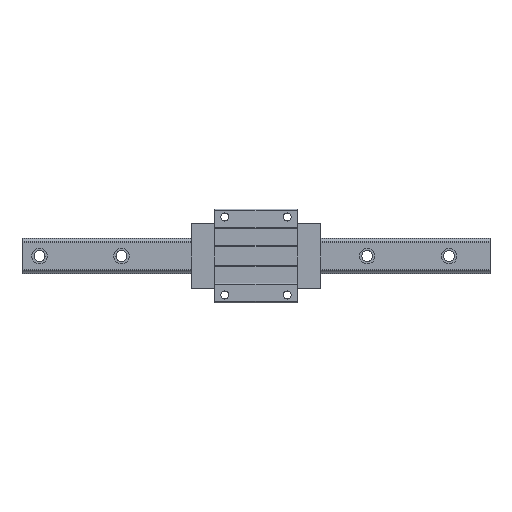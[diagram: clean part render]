
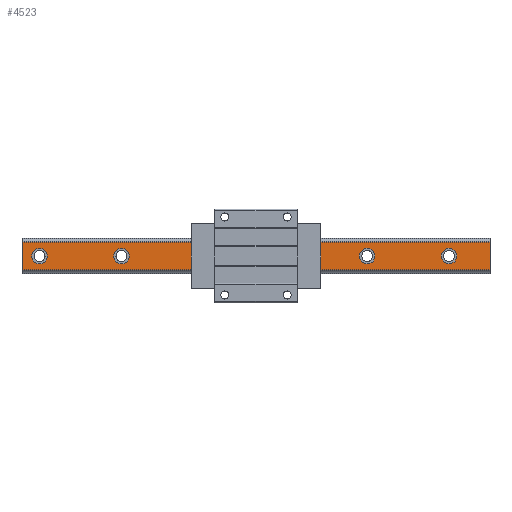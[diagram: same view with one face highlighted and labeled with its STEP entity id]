
A CAD part, top view. The second image highlights one B-rep face of the part: STEP entity #4523.
In plain terms, the highlighted planar face has unit normal (0, 0, 1).
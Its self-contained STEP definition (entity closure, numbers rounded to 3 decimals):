
#104 = EDGE_LOOP ( 'NONE', ( #3225, #5745 ) ) ;
#137 = VECTOR ( 'NONE', #3309, 1000. ) ;
#143 = CARTESIAN_POINT ( 'NONE',  ( -172.5, 0., 32. ) ) ;
#146 = CARTESIAN_POINT ( 'NONE',  ( 37.5, 0., 32. ) ) ;
#185 = DIRECTION ( 'NONE',  ( 0., 0., 1. ) ) ;
#203 = CARTESIAN_POINT ( 'NONE',  ( -267.5, 0., 32. ) ) ;
#219 = DIRECTION ( 'NONE',  ( 1., 0., 0. ) ) ;
#227 = DIRECTION ( 'NONE',  ( 1., 0., 0. ) ) ;
#313 = AXIS2_PLACEMENT_3D ( 'NONE', #6569, #3818, #3106 ) ;
#341 = FACE_BOUND ( 'NONE', #104, .T. ) ;
#343 = EDGE_LOOP ( 'NONE', ( #2213, #3346 ) ) ;
#413 = CIRCLE ( 'NONE', #4105, 10. ) ;
#472 = CARTESIAN_POINT ( 'NONE',  ( -67.5, 0., 32. ) ) ;
#483 = CARTESIAN_POINT ( 'NONE',  ( 47.5, 0., 32. ) ) ;
#532 = DIRECTION ( 'NONE',  ( 1., 0., 0. ) ) ;
#544 = DIRECTION ( 'NONE',  ( 1., 0., 0. ) ) ;
#573 = CARTESIAN_POINT ( 'NONE',  ( -77.5, 0., 32. ) ) ;
#594 = EDGE_CURVE ( 'NONE', #3089, #6977, #6960, .T. ) ;
#609 = AXIS2_PLACEMENT_3D ( 'NONE', #146, #2427, #219 ) ;
#615 = DIRECTION ( 'NONE',  ( 0., 0., 1. ) ) ;
#656 = VERTEX_POINT ( 'NONE', #7164 ) ;
#723 = CIRCLE ( 'NONE', #3000, 10. ) ;
#818 = VERTEX_POINT ( 'NONE', #5085 ) ;
#858 = PLANE ( 'NONE',  #313 ) ;
#917 = VECTOR ( 'NONE', #1128, 1000. ) ;
#942 = EDGE_LOOP ( 'NONE', ( #3585, #2788 ) ) ;
#1045 = EDGE_LOOP ( 'NONE', ( #7026, #6570, #2561, #6188 ) ) ;
#1128 = DIRECTION ( 'NONE',  ( 0., -1., 0. ) ) ;
#1202 = CARTESIAN_POINT ( 'NONE',  ( -57.5, 0., 32. ) ) ;
#1208 = CARTESIAN_POINT ( 'NONE',  ( 142.5, 0., 32. ) ) ;
#1227 = CARTESIAN_POINT ( 'NONE',  ( -67.5, 0., 32. ) ) ;
#1334 = VERTEX_POINT ( 'NONE', #2346 ) ;
#1412 = CARTESIAN_POINT ( 'NONE',  ( 27.5, 0., 32. ) ) ;
#1466 = AXIS2_PLACEMENT_3D ( 'NONE', #3392, #1745, #6175 ) ;
#1480 = CIRCLE ( 'NONE', #5747, 10. ) ;
#1591 = LINE ( 'NONE', #3198, #137 ) ;
#1611 = EDGE_LOOP ( 'NONE', ( #2737, #3540 ) ) ;
#1693 = LINE ( 'NONE', #3965, #917 ) ;
#1745 = DIRECTION ( 'NONE',  ( 0., 0., 1. ) ) ;
#1781 = CARTESIAN_POINT ( 'NONE',  ( -287.5, 0., 32. ) ) ;
#1841 = DIRECTION ( 'NONE',  ( 0., 0., 1. ) ) ;
#1954 = FACE_BOUND ( 'NONE', #343, .T. ) ;
#2103 = VERTEX_POINT ( 'NONE', #6229 ) ;
#2108 = FACE_BOUND ( 'NONE', #942, .T. ) ;
#2137 = CARTESIAN_POINT ( 'NONE',  ( -162.5, 0., 32. ) ) ;
#2196 = DIRECTION ( 'NONE',  ( 0., 0., 1. ) ) ;
#2205 = VERTEX_POINT ( 'NONE', #4032 ) ;
#2213 = ORIENTED_EDGE ( 'NONE', *, *, #6844, .F. ) ;
#2284 = CARTESIAN_POINT ( 'NONE',  ( 142.5, 0., 32. ) ) ;
#2289 = DIRECTION ( 'NONE',  ( 1., 0., 0. ) ) ;
#2297 = EDGE_CURVE ( 'NONE', #6004, #5664, #723, .T. ) ;
#2346 = CARTESIAN_POINT ( 'NONE',  ( 237.5, 0., 32. ) ) ;
#2427 = DIRECTION ( 'NONE',  ( 0., 0., 1. ) ) ;
#2465 = AXIS2_PLACEMENT_3D ( 'NONE', #1227, #185, #5844 ) ;
#2473 = EDGE_CURVE ( 'NONE', #818, #2103, #4435, .T. ) ;
#2560 = LINE ( 'NONE', #6992, #4805 ) ;
#2561 = ORIENTED_EDGE ( 'NONE', *, *, #4308, .F. ) ;
#2570 = AXIS2_PLACEMENT_3D ( 'NONE', #5121, #4561, #2289 ) ;
#2641 = CIRCLE ( 'NONE', #609, 10. ) ;
#2737 = ORIENTED_EDGE ( 'NONE', *, *, #5794, .F. ) ;
#2762 = VECTOR ( 'NONE', #5441, 1000. ) ;
#2784 = CIRCLE ( 'NONE', #3605, 10. ) ;
#2788 = ORIENTED_EDGE ( 'NONE', *, *, #6159, .F. ) ;
#2812 = ORIENTED_EDGE ( 'NONE', *, *, #7163, .F. ) ;
#2990 = DIRECTION ( 'NONE',  ( 1., 0., 0. ) ) ;
#3000 = AXIS2_PLACEMENT_3D ( 'NONE', #143, #4770, #2990 ) ;
#3089 = VERTEX_POINT ( 'NONE', #203 ) ;
#3106 = DIRECTION ( 'NONE',  ( 0., -1., 0. ) ) ;
#3177 = CARTESIAN_POINT ( 'NONE',  ( 300., -17.738, 32. ) ) ;
#3198 = CARTESIAN_POINT ( 'NONE',  ( -300., -17.738, 32. ) ) ;
#3225 = ORIENTED_EDGE ( 'NONE', *, *, #3853, .F. ) ;
#3309 = DIRECTION ( 'NONE',  ( 0., -1., 0. ) ) ;
#3330 = AXIS2_PLACEMENT_3D ( 'NONE', #5711, #5640, #532 ) ;
#3340 = EDGE_CURVE ( 'NONE', #1334, #6115, #5337, .T. ) ;
#3346 = ORIENTED_EDGE ( 'NONE', *, *, #3340, .F. ) ;
#3392 = CARTESIAN_POINT ( 'NONE',  ( -172.5, 0., 32. ) ) ;
#3540 = ORIENTED_EDGE ( 'NONE', *, *, #5020, .F. ) ;
#3585 = ORIENTED_EDGE ( 'NONE', *, *, #4762, .F. ) ;
#3605 = AXIS2_PLACEMENT_3D ( 'NONE', #6293, #5698, #4651 ) ;
#3730 = CARTESIAN_POINT ( 'NONE',  ( -277.5, 0., 32. ) ) ;
#3743 = FACE_BOUND ( 'NONE', #7218, .T. ) ;
#3780 = CIRCLE ( 'NONE', #2465, 10. ) ;
#3789 = CARTESIAN_POINT ( 'NONE',  ( 152.5, 0., 32. ) ) ;
#3818 = DIRECTION ( 'NONE',  ( 0., 0., -1. ) ) ;
#3853 = EDGE_CURVE ( 'NONE', #4113, #2205, #413, .T. ) ;
#3910 = CIRCLE ( 'NONE', #4261, 10. ) ;
#3965 = CARTESIAN_POINT ( 'NONE',  ( 300., -17.738, 32. ) ) ;
#4032 = CARTESIAN_POINT ( 'NONE',  ( 132.5, 0., 32. ) ) ;
#4070 = VERTEX_POINT ( 'NONE', #4907 ) ;
#4074 = CIRCLE ( 'NONE', #4441, 10. ) ;
#4105 = AXIS2_PLACEMENT_3D ( 'NONE', #1208, #615, #544 ) ;
#4111 = CARTESIAN_POINT ( 'NONE',  ( 247.5, 0., 32. ) ) ;
#4113 = VERTEX_POINT ( 'NONE', #3789 ) ;
#4261 = AXIS2_PLACEMENT_3D ( 'NONE', #3730, #7076, #5951 ) ;
#4308 = EDGE_CURVE ( 'NONE', #4070, #818, #1693, .T. ) ;
#4435 = LINE ( 'NONE', #3177, #2762 ) ;
#4441 = AXIS2_PLACEMENT_3D ( 'NONE', #4111, #1841, #227 ) ;
#4523 = ADVANCED_FACE ( 'NONE', ( #6530, #3743, #2108, #5964, #341, #1954, #4898 ), #858, .F. ) ;
#4561 = DIRECTION ( 'NONE',  ( 0., 0., 1. ) ) ;
#4630 = EDGE_CURVE ( 'NONE', #2205, #4113, #5674, .T. ) ;
#4651 = DIRECTION ( 'NONE',  ( 1., 0., 0. ) ) ;
#4672 = CIRCLE ( 'NONE', #1466, 10. ) ;
#4762 = EDGE_CURVE ( 'NONE', #6718, #5452, #3780, .T. ) ;
#4770 = DIRECTION ( 'NONE',  ( 0., 0., 1. ) ) ;
#4805 = VECTOR ( 'NONE', #5384, 1000. ) ;
#4898 = FACE_OUTER_BOUND ( 'NONE', #1045, .T. ) ;
#4907 = CARTESIAN_POINT ( 'NONE',  ( 300., 17.738, 32. ) ) ;
#4994 = DIRECTION ( 'NONE',  ( 1., 0., 0. ) ) ;
#5020 = EDGE_CURVE ( 'NONE', #7183, #5716, #2641, .T. ) ;
#5085 = CARTESIAN_POINT ( 'NONE',  ( 300., -17.738, 32. ) ) ;
#5121 = CARTESIAN_POINT ( 'NONE',  ( -277.5, 0., 32. ) ) ;
#5337 = CIRCLE ( 'NONE', #3330, 10. ) ;
#5384 = DIRECTION ( 'NONE',  ( -1., 0., 0. ) ) ;
#5441 = DIRECTION ( 'NONE',  ( -1., 0., 0. ) ) ;
#5452 = VERTEX_POINT ( 'NONE', #573 ) ;
#5517 = ORIENTED_EDGE ( 'NONE', *, *, #2297, .F. ) ;
#5627 = ORIENTED_EDGE ( 'NONE', *, *, #594, .F. ) ;
#5640 = DIRECTION ( 'NONE',  ( 0., 0., 1. ) ) ;
#5664 = VERTEX_POINT ( 'NONE', #2137 ) ;
#5673 = DIRECTION ( 'NONE',  ( 0., 0., 1. ) ) ;
#5674 = CIRCLE ( 'NONE', #6376, 10. ) ;
#5698 = DIRECTION ( 'NONE',  ( 0., 0., 1. ) ) ;
#5711 = CARTESIAN_POINT ( 'NONE',  ( 247.5, 0., 32. ) ) ;
#5716 = VERTEX_POINT ( 'NONE', #483 ) ;
#5745 = ORIENTED_EDGE ( 'NONE', *, *, #4630, .F. ) ;
#5747 = AXIS2_PLACEMENT_3D ( 'NONE', #472, #2196, #4994 ) ;
#5794 = EDGE_CURVE ( 'NONE', #5716, #7183, #2784, .T. ) ;
#5844 = DIRECTION ( 'NONE',  ( 1., 0., 0. ) ) ;
#5951 = DIRECTION ( 'NONE',  ( 1., 0., 0. ) ) ;
#5964 = FACE_BOUND ( 'NONE', #1611, .T. ) ;
#6004 = VERTEX_POINT ( 'NONE', #6398 ) ;
#6115 = VERTEX_POINT ( 'NONE', #7295 ) ;
#6117 = DIRECTION ( 'NONE',  ( 1., 0., 0. ) ) ;
#6159 = EDGE_CURVE ( 'NONE', #5452, #6718, #1480, .T. ) ;
#6175 = DIRECTION ( 'NONE',  ( 1., 0., 0. ) ) ;
#6188 = ORIENTED_EDGE ( 'NONE', *, *, #6391, .T. ) ;
#6229 = CARTESIAN_POINT ( 'NONE',  ( -300., -17.738, 32. ) ) ;
#6293 = CARTESIAN_POINT ( 'NONE',  ( 37.5, 0., 32. ) ) ;
#6376 = AXIS2_PLACEMENT_3D ( 'NONE', #2284, #5673, #6117 ) ;
#6391 = EDGE_CURVE ( 'NONE', #4070, #656, #2560, .T. ) ;
#6398 = CARTESIAN_POINT ( 'NONE',  ( -182.5, 0., 32. ) ) ;
#6530 = FACE_BOUND ( 'NONE', #6950, .T. ) ;
#6569 = CARTESIAN_POINT ( 'NONE',  ( 300., -17.738, 32. ) ) ;
#6570 = ORIENTED_EDGE ( 'NONE', *, *, #2473, .F. ) ;
#6627 = EDGE_CURVE ( 'NONE', #656, #2103, #1591, .T. ) ;
#6644 = ORIENTED_EDGE ( 'NONE', *, *, #7022, .F. ) ;
#6718 = VERTEX_POINT ( 'NONE', #1202 ) ;
#6844 = EDGE_CURVE ( 'NONE', #6115, #1334, #4074, .T. ) ;
#6950 = EDGE_LOOP ( 'NONE', ( #5627, #2812 ) ) ;
#6960 = CIRCLE ( 'NONE', #2570, 10. ) ;
#6977 = VERTEX_POINT ( 'NONE', #1781 ) ;
#6992 = CARTESIAN_POINT ( 'NONE',  ( 300., 17.738, 32. ) ) ;
#7022 = EDGE_CURVE ( 'NONE', #5664, #6004, #4672, .T. ) ;
#7026 = ORIENTED_EDGE ( 'NONE', *, *, #6627, .T. ) ;
#7076 = DIRECTION ( 'NONE',  ( 0., 0., 1. ) ) ;
#7163 = EDGE_CURVE ( 'NONE', #6977, #3089, #3910, .T. ) ;
#7164 = CARTESIAN_POINT ( 'NONE',  ( -300., 17.738, 32. ) ) ;
#7183 = VERTEX_POINT ( 'NONE', #1412 ) ;
#7218 = EDGE_LOOP ( 'NONE', ( #6644, #5517 ) ) ;
#7295 = CARTESIAN_POINT ( 'NONE',  ( 257.5, 0., 32. ) ) ;
